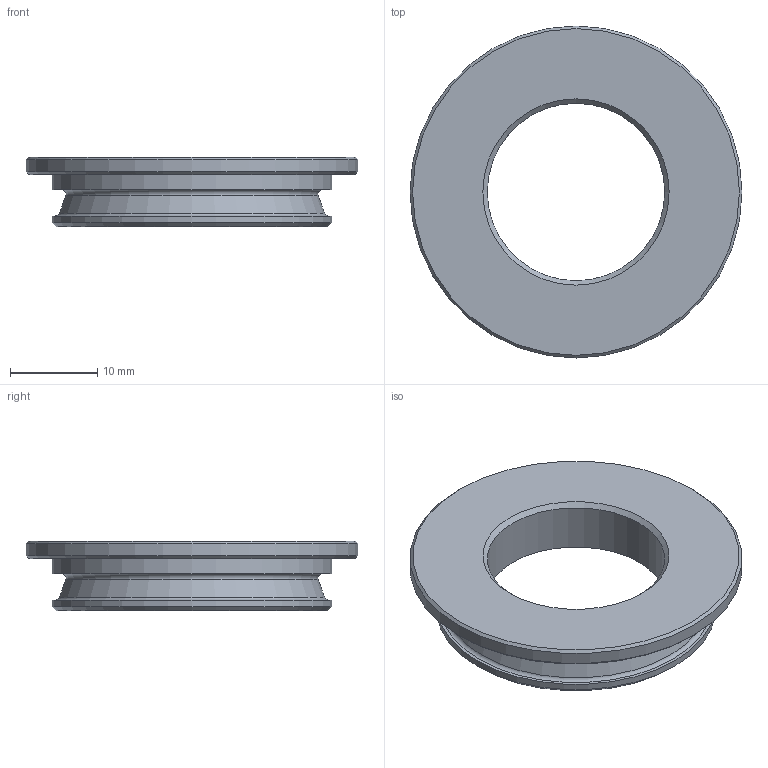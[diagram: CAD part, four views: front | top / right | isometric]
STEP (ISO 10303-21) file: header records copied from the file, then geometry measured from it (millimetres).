
FILE_DESCRIPTION((''),'2;1');
FILE_NAME('Z:\1図面ﾃﾞｰﾀ\1_motorized stages\01_国内製品\10_Piezo\SFS-OBL\SFS-OBL-1\OBL-ADP-M20.32B.stp','2008-01-28T12:01:30',('kawashima'),(''),'Autodesk Inventor 11','Autodesk Inventor 11','');
FILE_SCHEMA(('AUTOMOTIVE_DESIGN { 1 0 10303 214 1 1 1 1 }'));
Length unit declared in the file: millimetre
Products named in the file (1): SFS-OBL-1-13A
Bounding box: 38 x 38 x 8 mm (x, y, z)
Volume: 3705.4 mm3; surface area: 3101.8 mm2
Topology: 1 solids, 1 shells, 18 faces, 32 edges, 20 vertices
Faces by surface type: plane 6, cone 5, cylinder 5, torus 2
Full cylindrical faces by diameter (mm): 20.32 x1, 26 x1, 32 x2, 38 x1
Entity records: 391 total; most frequent: DIRECTION 74, CARTESIAN_POINT 55, AXIS2_PLACEMENT_3D 37, ORIENTED_EDGE 36, EDGE_LOOP 36, VERTEX_POINT 18, CIRCLE 18, EDGE_CURVE 18
